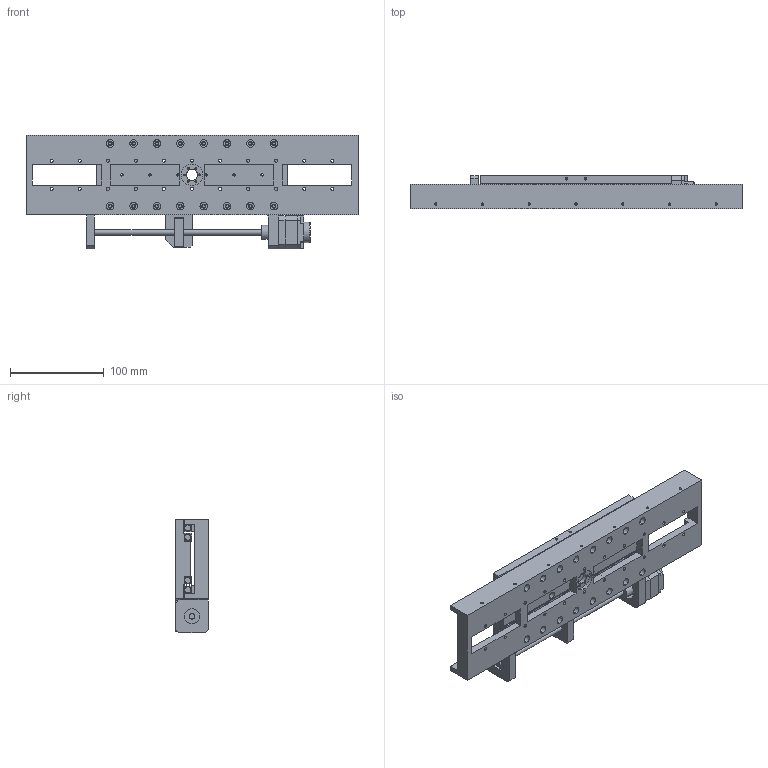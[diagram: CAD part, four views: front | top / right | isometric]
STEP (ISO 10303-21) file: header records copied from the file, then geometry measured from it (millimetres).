
FILE_DESCRIPTION (( 'STEP AP214' ), '1' );
FILE_NAME ('VSM17-X-150.STEP', '2022-12-15T14:24:57', ( '' ), ( '' ), 'SwSTEP 2.0', 'SolidWorks 2022', '' );
FILE_SCHEMA (( 'AUTOMOTIVE_DESIGN' ));
Length unit declared in the file: millimetre
Products named in the file (7): VSM17-X-150; Simplified Roller Bearing 150; Simplified VSM17-X-150 Carriage; Simplified Leadscrew Nut; Simplified Drivetrain_VSM17-X-150; Simplified Motor_H; Simplified VSM17-X-150 Base V2
Assembly tree (9 placements, depth 2):
  VSM17-X-150
    Simplified VSM17-X-150 Base V2
    Simplified Roller Bearing 150  x4
    Simplified VSM17-X-150 Carriage
    Simplified Motor_H
    Simplified Leadscrew Nut
    Simplified Drivetrain_VSM17-X-150
Bounding box: 355 x 36 x 121.7 mm (x, y, z)
Volume: 627664.8 mm3; surface area: 202316 mm2
Topology: 9 solids, 9 shells, 973 faces, 2460 edges, 1559 vertices
Faces by surface type: cylinder 502, plane 307, cone 148, torus 16
Entity records: 22967 total; most frequent: DIRECTION 3900, CARTESIAN_POINT 3662, ORIENTED_EDGE 3408, EDGE_CURVE 1704, AXIS2_PLACEMENT_3D 1519, VERTEX_POINT 1115, EDGE_LOOP 975, LINE 862
